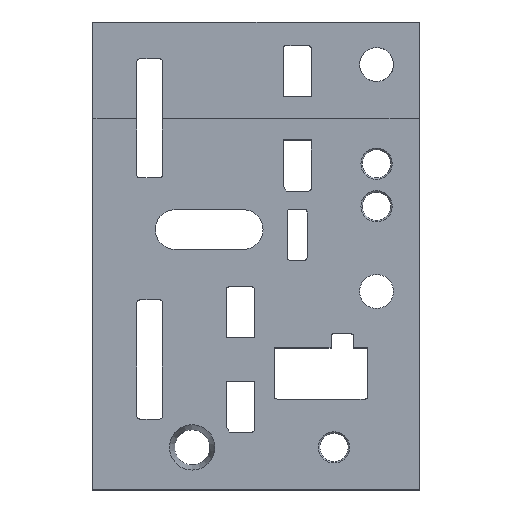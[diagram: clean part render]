
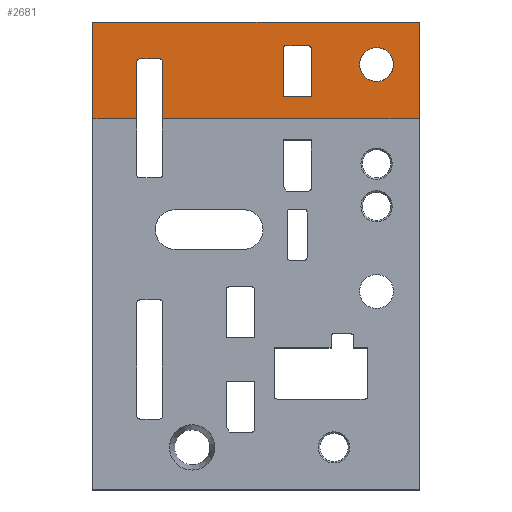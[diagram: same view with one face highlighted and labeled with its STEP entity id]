
A CAD part, top view. The second image highlights one B-rep face of the part: STEP entity #2681.
In plain terms, the highlighted planar face has unit normal (0, 0, 1).
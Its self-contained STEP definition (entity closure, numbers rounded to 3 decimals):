
#812=CARTESIAN_POINT('',(0.0,165.0,8.6));
#813=VERTEX_POINT('',#812);
#820=CARTESIAN_POINT('',(115.0,165.0,8.6));
#821=VERTEX_POINT('',#820);
#822=CARTESIAN_POINT('',(115.0,165.0,8.6));
#823=DIRECTION('',(-1.0,0.0,0.0));
#824=VECTOR('',#823,1.0);
#825=LINE('',#822,#824);
#826=EDGE_CURVE('',#821,#813,#825,.T.);
#844=CARTESIAN_POINT('',(115.0,130.8,8.6));
#845=VERTEX_POINT('',#844);
#846=CARTESIAN_POINT('',(115.0,130.8,8.6));
#847=DIRECTION('',(0.0,1.0,0.0));
#848=VECTOR('',#847,1.0);
#849=LINE('',#846,#848);
#850=EDGE_CURVE('',#845,#821,#849,.T.);
#909=CARTESIAN_POINT('',(0.0,130.8,8.6));
#910=VERTEX_POINT('',#909);
#917=CARTESIAN_POINT('',(0.0,165.0,8.6));
#918=DIRECTION('',(0.0,-1.0,0.0));
#919=VECTOR('',#918,1.0);
#920=LINE('',#917,#919);
#921=EDGE_CURVE('',#813,#910,#920,.T.);
#2519=CARTESIAN_POINT('',(15.5,130.8,8.6));
#2520=VERTEX_POINT('',#2519);
#2530=CARTESIAN_POINT('',(15.5,151.0,8.6));
#2531=VERTEX_POINT('',#2530);
#2538=CARTESIAN_POINT('',(15.5,151.0,8.6));
#2539=DIRECTION('',(0.0,-1.0,0.0));
#2540=VECTOR('',#2539,1.0);
#2541=LINE('',#2538,#2540);
#2542=EDGE_CURVE('',#2531,#2520,#2541,.T.);
#2552=CARTESIAN_POINT('',(100.0,156.0,8.6));
#2553=VERTEX_POINT('',#2552);
#2554=CARTESIAN_POINT('',(100.0,144.0,8.6));
#2555=VERTEX_POINT('',#2554);
#2556=CARTESIAN_POINT('',(100.0,156.0,8.6));
#2557=CARTESIAN_POINT('',(88.0,156.0,8.6));
#2558=CARTESIAN_POINT('',(88.0,144.0,8.6));
#2559=CARTESIAN_POINT('',(100.0,144.0,8.6));
#2560=(BOUNDED_CURVE() B_SPLINE_CURVE(3,(#2556,#2557,#2558,#2559),.UNSPECIFIED.,.F.,.U.)
  B_SPLINE_CURVE_WITH_KNOTS((4,4),(0.0,1.0),.UNSPECIFIED.)
  CURVE() GEOMETRIC_REPRESENTATION_ITEM() RATIONAL_B_SPLINE_CURVE((1.0,0.333,0.333,1.0))  REPRESENTATION_ITEM('') );
#2561=EDGE_CURVE('',#2553,#2555,#2560,.T.);
#2562=ORIENTED_EDGE('',*,*,#2561,.F.);
#2563=CARTESIAN_POINT('',(100.0,144.0,8.6));
#2564=CARTESIAN_POINT('',(112.0,144.0,8.6));
#2565=CARTESIAN_POINT('',(112.0,156.0,8.6));
#2566=CARTESIAN_POINT('',(100.0,156.0,8.6));
#2567=(BOUNDED_CURVE() B_SPLINE_CURVE(3,(#2563,#2564,#2565,#2566),.UNSPECIFIED.,.F.,.U.)
  B_SPLINE_CURVE_WITH_KNOTS((4,4),(0.0,1.0),.UNSPECIFIED.)
  CURVE() GEOMETRIC_REPRESENTATION_ITEM() RATIONAL_B_SPLINE_CURVE((1.0,0.333,0.333,1.0))  REPRESENTATION_ITEM('') );
#2568=EDGE_CURVE('',#2555,#2553,#2567,.T.);
#2569=ORIENTED_EDGE('',*,*,#2568,.F.);
#2570=EDGE_LOOP('',(#2562,#2569));
#2571=FACE_BOUND('',#2570,.T.);
#2572=ORIENTED_EDGE('',*,*,#826,.T.);
#2573=ORIENTED_EDGE('',*,*,#921,.T.);
#2574=CARTESIAN_POINT('',(0.0,130.8,8.6));
#2575=DIRECTION('',(1.0,0.0,0.0));
#2576=VECTOR('',#2575,1.0);
#2577=LINE('',#2574,#2576);
#2578=EDGE_CURVE('',#910,#2520,#2577,.T.);
#2579=ORIENTED_EDGE('',*,*,#2578,.T.);
#2580=ORIENTED_EDGE('',*,*,#2542,.F.);
#2581=CARTESIAN_POINT('',(16.5,152.0,8.6));
#2582=VERTEX_POINT('',#2581);
#2583=CARTESIAN_POINT('',(16.5,152.0,8.6));
#2584=CARTESIAN_POINT('',(15.914,152.0,8.6));
#2585=CARTESIAN_POINT('',(15.5,151.586,8.6));
#2586=CARTESIAN_POINT('',(15.5,151.0,8.6));
#2587=(BOUNDED_CURVE() B_SPLINE_CURVE(3,(#2583,#2584,#2585,#2586),.UNSPECIFIED.,.F.,.U.)
  B_SPLINE_CURVE_WITH_KNOTS((4,4),(0.0,1.0),.UNSPECIFIED.)
  CURVE() GEOMETRIC_REPRESENTATION_ITEM() RATIONAL_B_SPLINE_CURVE((1.0,0.805,0.805,1.0))  REPRESENTATION_ITEM('') );
#2588=EDGE_CURVE('',#2582,#2531,#2587,.T.);
#2589=ORIENTED_EDGE('',*,*,#2588,.F.);
#2590=CARTESIAN_POINT('',(23.5,152.0,8.6));
#2591=VERTEX_POINT('',#2590);
#2592=CARTESIAN_POINT('',(23.5,152.0,8.6));
#2593=DIRECTION('',(-1.0,0.0,0.0));
#2594=VECTOR('',#2593,1.0);
#2595=LINE('',#2592,#2594);
#2596=EDGE_CURVE('',#2591,#2582,#2595,.T.);
#2597=ORIENTED_EDGE('',*,*,#2596,.F.);
#2598=CARTESIAN_POINT('',(24.5,151.0,8.6));
#2599=VERTEX_POINT('',#2598);
#2600=CARTESIAN_POINT('',(24.5,151.0,8.6));
#2601=CARTESIAN_POINT('',(24.5,151.586,8.6));
#2602=CARTESIAN_POINT('',(24.086,152.0,8.6));
#2603=CARTESIAN_POINT('',(23.5,152.0,8.6));
#2604=(BOUNDED_CURVE() B_SPLINE_CURVE(3,(#2600,#2601,#2602,#2603),.UNSPECIFIED.,.F.,.U.)
  B_SPLINE_CURVE_WITH_KNOTS((4,4),(0.0,1.0),.UNSPECIFIED.)
  CURVE() GEOMETRIC_REPRESENTATION_ITEM() RATIONAL_B_SPLINE_CURVE((1.0,0.805,0.805,1.0))  REPRESENTATION_ITEM('') );
#2605=EDGE_CURVE('',#2599,#2591,#2604,.T.);
#2606=ORIENTED_EDGE('',*,*,#2605,.F.);
#2607=CARTESIAN_POINT('',(24.5,130.8,8.6));
#2608=VERTEX_POINT('',#2607);
#2609=CARTESIAN_POINT('',(24.5,130.8,8.6));
#2610=DIRECTION('',(0.0,1.0,0.0));
#2611=VECTOR('',#2610,1.0);
#2612=LINE('',#2609,#2611);
#2613=EDGE_CURVE('',#2608,#2599,#2612,.T.);
#2614=ORIENTED_EDGE('',*,*,#2613,.F.);
#2615=CARTESIAN_POINT('',(24.5,130.8,8.6));
#2616=DIRECTION('',(1.0,0.0,0.0));
#2617=VECTOR('',#2616,1.0);
#2618=LINE('',#2615,#2617);
#2619=EDGE_CURVE('',#2608,#845,#2618,.T.);
#2620=ORIENTED_EDGE('',*,*,#2619,.T.);
#2621=ORIENTED_EDGE('',*,*,#850,.T.);
#2622=EDGE_LOOP('',(#2572,#2573,#2579,#2580,#2589,#2597,#2606,#2614,#2620,#2621));
#2623=FACE_OUTER_BOUND('',#2622,.T.);
#2624=CARTESIAN_POINT('',(77.025,138.6,8.6));
#2625=VERTEX_POINT('',#2624);
#2626=CARTESIAN_POINT('',(77.025,155.6,8.6));
#2627=VERTEX_POINT('',#2626);
#2628=CARTESIAN_POINT('',(77.025,138.6,8.6));
#2629=DIRECTION('',(0.0,1.0,0.0));
#2630=VECTOR('',#2629,1.0);
#2631=LINE('',#2628,#2630);
#2632=EDGE_CURVE('',#2625,#2627,#2631,.T.);
#2633=ORIENTED_EDGE('',*,*,#2632,.F.);
#2634=CARTESIAN_POINT('',(67.025,138.6,8.6));
#2635=VERTEX_POINT('',#2634);
#2636=CARTESIAN_POINT('',(67.025,138.6,8.6));
#2637=DIRECTION('',(1.0,0.0,0.0));
#2638=VECTOR('',#2637,1.0);
#2639=LINE('',#2636,#2638);
#2640=EDGE_CURVE('',#2635,#2625,#2639,.T.);
#2641=ORIENTED_EDGE('',*,*,#2640,.F.);
#2642=CARTESIAN_POINT('',(67.025,155.6,8.6));
#2643=VERTEX_POINT('',#2642);
#2644=CARTESIAN_POINT('',(67.025,155.6,8.6));
#2645=DIRECTION('',(0.0,-1.0,0.0));
#2646=VECTOR('',#2645,1.0);
#2647=LINE('',#2644,#2646);
#2648=EDGE_CURVE('',#2643,#2635,#2647,.T.);
#2649=ORIENTED_EDGE('',*,*,#2648,.F.);
#2650=CARTESIAN_POINT('',(68.025,156.6,8.6));
#2651=VERTEX_POINT('',#2650);
#2652=CARTESIAN_POINT('',(68.025,156.6,8.6));
#2653=CARTESIAN_POINT('',(67.44,156.6,8.6));
#2654=CARTESIAN_POINT('',(67.025,156.186,8.6));
#2655=CARTESIAN_POINT('',(67.025,155.6,8.6));
#2656=(BOUNDED_CURVE() B_SPLINE_CURVE(3,(#2652,#2653,#2654,#2655),.UNSPECIFIED.,.F.,.U.)
  B_SPLINE_CURVE_WITH_KNOTS((4,4),(0.0,1.0),.UNSPECIFIED.)
  CURVE() GEOMETRIC_REPRESENTATION_ITEM() RATIONAL_B_SPLINE_CURVE((1.0,0.805,0.805,1.0))  REPRESENTATION_ITEM('') );
#2657=EDGE_CURVE('',#2651,#2643,#2656,.T.);
#2658=ORIENTED_EDGE('',*,*,#2657,.F.);
#2659=CARTESIAN_POINT('',(76.025,156.6,8.6));
#2660=VERTEX_POINT('',#2659);
#2661=CARTESIAN_POINT('',(76.025,156.6,8.6));
#2662=DIRECTION('',(-1.0,0.0,0.0));
#2663=VECTOR('',#2662,1.0);
#2664=LINE('',#2661,#2663);
#2665=EDGE_CURVE('',#2660,#2651,#2664,.T.);
#2666=ORIENTED_EDGE('',*,*,#2665,.F.);
#2667=CARTESIAN_POINT('',(77.025,155.6,8.6));
#2668=CARTESIAN_POINT('',(77.025,156.186,8.6));
#2669=CARTESIAN_POINT('',(76.611,156.6,8.6));
#2670=CARTESIAN_POINT('',(76.025,156.6,8.6));
#2671=(BOUNDED_CURVE() B_SPLINE_CURVE(3,(#2667,#2668,#2669,#2670),.UNSPECIFIED.,.F.,.U.)
  B_SPLINE_CURVE_WITH_KNOTS((4,4),(0.0,1.0),.UNSPECIFIED.)
  CURVE() GEOMETRIC_REPRESENTATION_ITEM() RATIONAL_B_SPLINE_CURVE((1.0,0.805,0.805,1.0))  REPRESENTATION_ITEM('') );
#2672=EDGE_CURVE('',#2627,#2660,#2671,.T.);
#2673=ORIENTED_EDGE('',*,*,#2672,.F.);
#2674=EDGE_LOOP('',(#2633,#2641,#2649,#2658,#2666,#2673));
#2675=FACE_BOUND('',#2674,.T.);
#2676=CARTESIAN_POINT('',(57.5,147.9,8.6));
#2677=DIRECTION('',(0.0,0.0,-1.0));
#2678=DIRECTION('',(-1.0,0.0,0.0));
#2679=AXIS2_PLACEMENT_3D('',#2676,#2677,#2678);
#2680=PLANE('',#2679);
#2681=ADVANCED_FACE('',(#2571,#2623,#2675),#2680,.F.);
